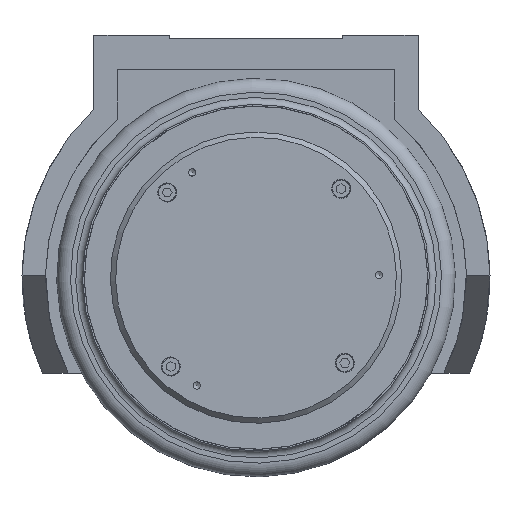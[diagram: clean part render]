
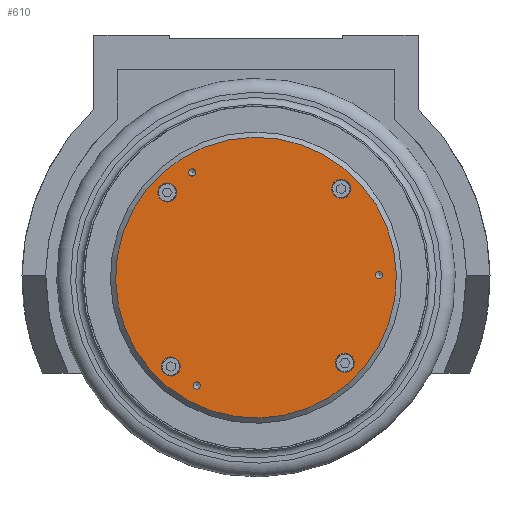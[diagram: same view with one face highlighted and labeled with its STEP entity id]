
A CAD part, front view. The second image highlights one B-rep face of the part: STEP entity #610.
In plain terms, the highlighted planar face has unit normal (0, -1, 0).
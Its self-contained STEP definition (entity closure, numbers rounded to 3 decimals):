
#610=ADVANCED_FACE('',(#2663,#2664,#2665,#2666,#2667,#2668,#2669,#2670),#2671,.T.);
#2663=FACE_BOUND('',#6592,.T.);
#2664=FACE_BOUND('',#6593,.T.);
#2665=FACE_BOUND('',#6594,.T.);
#2666=FACE_BOUND('',#6595,.T.);
#2667=FACE_BOUND('',#6596,.T.);
#2668=FACE_BOUND('',#6597,.T.);
#2669=FACE_BOUND('',#6598,.T.);
#2670=FACE_OUTER_BOUND('',#6599,.T.);
#2671=PLANE('',#6600);
#6592=EDGE_LOOP('',(#17324));
#6593=EDGE_LOOP('',(#17325));
#6594=EDGE_LOOP('',(#17326));
#6595=EDGE_LOOP('',(#17327));
#6596=EDGE_LOOP('',(#17328));
#6597=EDGE_LOOP('',(#17329));
#6598=EDGE_LOOP('',(#17330));
#6599=EDGE_LOOP('',(#17331));
#6600=AXIS2_PLACEMENT_3D('',#17332,#17333,#17334);
#17324=ORIENTED_EDGE('',*,*,#25095,.T.);
#17325=ORIENTED_EDGE('',*,*,#25084,.T.);
#17326=ORIENTED_EDGE('',*,*,#25737,.T.);
#17327=ORIENTED_EDGE('',*,*,#25735,.T.);
#17328=ORIENTED_EDGE('',*,*,#24985,.T.);
#17329=ORIENTED_EDGE('',*,*,#24986,.T.);
#17330=ORIENTED_EDGE('',*,*,#25082,.T.);
#17331=ORIENTED_EDGE('',*,*,#25738,.T.);
#17332=CARTESIAN_POINT('',(0.0,-135.5,0.));
#17333=DIRECTION('',(0.0,-1.0,0.));
#17334=DIRECTION('',(-1.0,0.,0.));
#24985=EDGE_CURVE('',#29215,#29215,#29216,.T.);
#24986=EDGE_CURVE('',#29217,#29217,#29218,.T.);
#25082=EDGE_CURVE('',#29389,#29389,#29390,.T.);
#25084=EDGE_CURVE('',#29393,#29393,#29394,.T.);
#25095=EDGE_CURVE('',#29415,#29415,#29416,.T.);
#25735=EDGE_CURVE('',#30480,#30480,#30481,.T.);
#25737=EDGE_CURVE('',#30482,#30482,#30483,.T.);
#25738=EDGE_CURVE('',#30484,#30484,#30485,.T.);
#29215=VERTEX_POINT('',#36190);
#29216=CIRCLE('',#36191,5.5);
#29217=VERTEX_POINT('',#36192);
#29218=CIRCLE('',#36193,5.5);
#29389=VERTEX_POINT('',#36422);
#29390=CIRCLE('',#36423,5.5);
#29393=VERTEX_POINT('',#36426);
#29394=CIRCLE('',#36427,2.1);
#29415=VERTEX_POINT('',#36448);
#29416=CIRCLE('',#36449,2.1);
#30480=VERTEX_POINT('',#38111);
#30481=CIRCLE('',#38112,5.5);
#30482=VERTEX_POINT('',#38113);
#30483=CIRCLE('',#38114,2.1);
#30484=VERTEX_POINT('',#38115);
#30485=CIRCLE('',#38116,81.0);
#36190=CARTESIAN_POINT('',(54.634,-135.5,51.368));
#36191=AXIS2_PLACEMENT_3D('',#46451,#46452,#46453);
#36192=CARTESIAN_POINT('',(-51.368,-135.5,54.634));
#36193=AXIS2_PLACEMENT_3D('',#46454,#46455,#46456);
#36422=CARTESIAN_POINT('',(-54.634,-135.5,-51.368));
#36423=AXIS2_PLACEMENT_3D('',#46636,#46637,#46638);
#36426=CARTESIAN_POINT('',(-34.992,-135.5,61.814));
#36427=AXIS2_PLACEMENT_3D('',#46642,#46643,#46644);
#36448=CARTESIAN_POINT('',(71.028,-135.5,-0.603));
#36449=AXIS2_PLACEMENT_3D('',#46675,#46676,#46677);
#38111=CARTESIAN_POINT('',(51.368,-135.5,-54.634));
#38112=AXIS2_PLACEMENT_3D('',#47782,#47783,#47784);
#38113=CARTESIAN_POINT('',(-36.036,-135.5,-61.211));
#38114=AXIS2_PLACEMENT_3D('',#47785,#47786,#47787);
#38115=CARTESIAN_POINT('',(1.707,-135.5,-80.982));
#38116=AXIS2_PLACEMENT_3D('',#47788,#47789,#47790);
#46451=CARTESIAN_POINT('',(49.135,-135.5,51.252));
#46452=DIRECTION('',(0.0,1.0,0.));
#46453=DIRECTION('',(1.,0.,0.021));
#46454=CARTESIAN_POINT('',(-51.252,-135.5,49.135));
#46455=DIRECTION('',(0.0,1.0,0.));
#46456=DIRECTION('',(-0.021,0.,1.));
#46636=CARTESIAN_POINT('',(-49.135,-135.5,-51.252));
#46637=DIRECTION('',(0.,1.0,0.));
#46638=DIRECTION('',(-1.,0.,-0.021));
#46642=CARTESIAN_POINT('',(-36.788,-135.5,60.726));
#46643=DIRECTION('',(0.0,1.0,0.));
#46644=DIRECTION('',(0.855,0.,0.518));
#46675=CARTESIAN_POINT('',(70.984,-135.5,1.497));
#46676=DIRECTION('',(0.0,1.0,0.));
#46677=DIRECTION('',(0.021,0.,-1.));
#47782=CARTESIAN_POINT('',(51.252,-135.5,-49.135));
#47783=DIRECTION('',(0.0,1.0,0.));
#47784=DIRECTION('',(0.021,0.,-1.));
#47785=CARTESIAN_POINT('',(-34.196,-135.5,-62.222));
#47786=DIRECTION('',(0.,1.0,0.));
#47787=DIRECTION('',(-0.876,0.,0.482));
#47788=CARTESIAN_POINT('',(0.0,-135.5,0.));
#47789=DIRECTION('',(0.0,-1.0,0.));
#47790=DIRECTION('',(0.021,0.,-1.));
